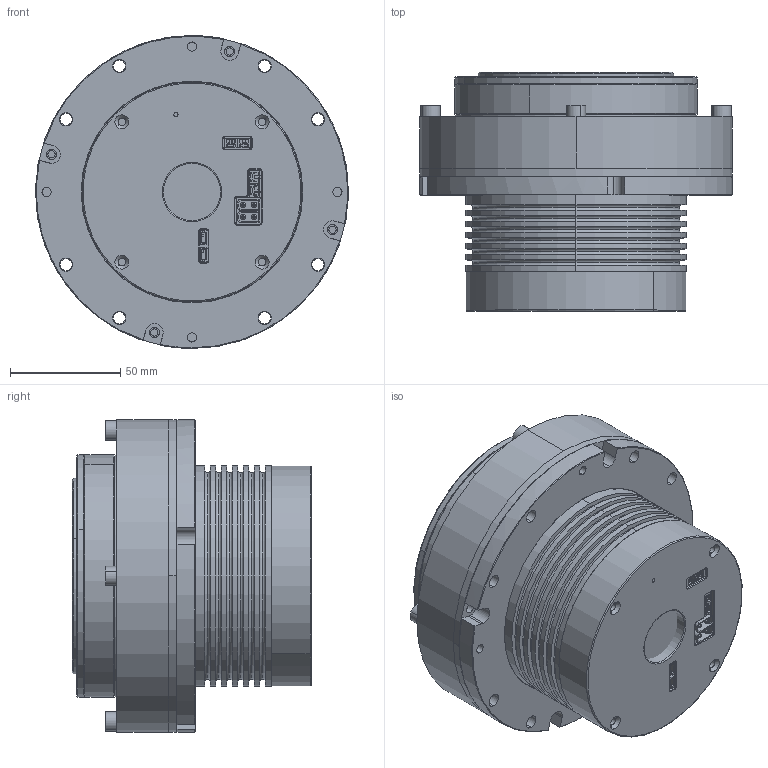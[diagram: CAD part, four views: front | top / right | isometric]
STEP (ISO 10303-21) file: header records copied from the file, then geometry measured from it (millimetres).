
FILE_DESCRIPTION (( 'STEP AP203' ), '1' );
FILE_NAME ('1MT.055.023（RH-32-100-E-N 一体化谐波减速模组-双编+ECAT）.STEP', '2024-10-30T03:56:03', ( '' ), ( '' ), 'SwSTEP 2.0', 'SolidWorks 2020', '' );
FILE_SCHEMA (( 'CONFIG_CONTROL_DESIGN' ));
Length unit declared in the file: millimetre
Products named in the file (1): 1MT.055.023（RH-32-100-E-N 一体化谐波减速模组-双编+ECAT）
Bounding box: 142 x 108.64 x 142 mm (x, y, z)
Surface area: 137238 mm2 (no closed solid volume)
Topology: 0 solids, 56 shells, 619 faces, 2533 edges, 1980 vertices
Faces by surface type: plane 307, cylinder 217, cone 47, torus 32, bspline 16
Entity records: 27231 total; most frequent: CARTESIAN_POINT 5721, DIRECTION 4650, ORIENTED_EDGE 3675, EDGE_CURVE 2533, VERTEX_POINT 1980, AXIS2_PLACEMENT_3D 1573, LINE 1504, VECTOR 1504
